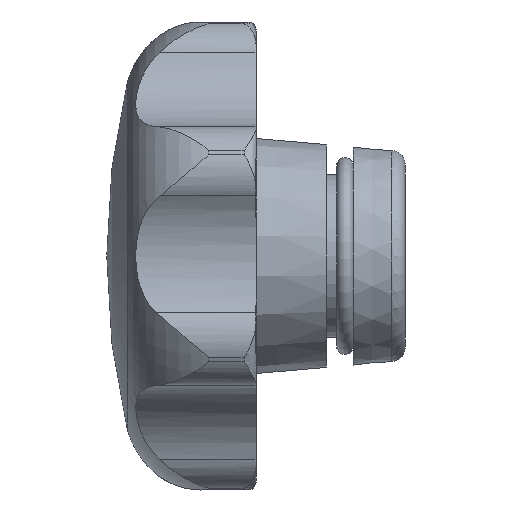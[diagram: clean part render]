
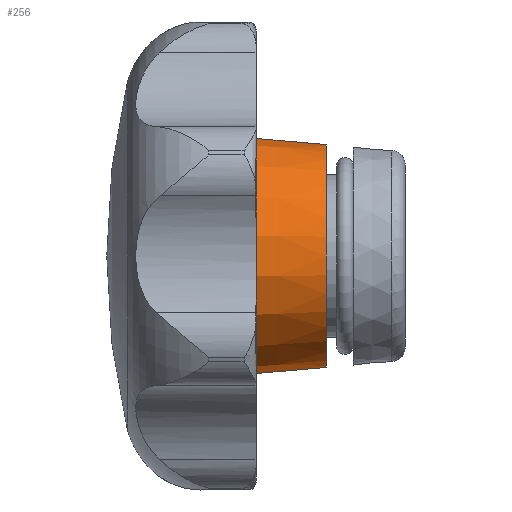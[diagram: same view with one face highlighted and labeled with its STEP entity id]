
A CAD part, left-side view. The second image highlights one B-rep face of the part: STEP entity #256.
In plain terms, the highlighted conical face has half-angle 5 degrees and reference radius 8.312 mm.
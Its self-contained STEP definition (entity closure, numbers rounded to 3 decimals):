
#256 = ADVANCED_FACE( '', ( #559, #560 ), #561, .T. );
#559 = FACE_BOUND( '', #966, .T. );
#560 = FACE_OUTER_BOUND( '', #967, .T. );
#561 = CONICAL_SURFACE( '', #968, 8.312, 0.087 );
#966 = EDGE_LOOP( '', ( #1771 ) );
#967 = EDGE_LOOP( '', ( #1772 ) );
#968 = AXIS2_PLACEMENT_3D( '', #1773, #1774, #1775 );
#1771 = ORIENTED_EDGE( '', *, *, #2808, .F. );
#1772 = ORIENTED_EDGE( '', *, *, #2809, .T. );
#1773 = CARTESIAN_POINT( '', ( 0., 14.976, 0. ) );
#1774 = DIRECTION( '', ( 0., 1., 0. ) );
#1775 = DIRECTION( '', ( 0., 0., 1. ) );
#2808 = EDGE_CURVE( '', #3452, #3452, #3453, .T. );
#2809 = EDGE_CURVE( '', #3454, #3454, #3455, .T. );
#3452 = VERTEX_POINT( '', #5358 );
#3453 = CIRCLE( '', #5359, 7.465 );
#3454 = VERTEX_POINT( '', #5360 );
#3455 = CIRCLE( '', #5361, 8.312 );
#5358 = CARTESIAN_POINT( '', ( 0., 5.3, -7.465 ) );
#5359 = AXIS2_PLACEMENT_3D( '', #6111, #6112, #6113 );
#5360 = CARTESIAN_POINT( '', ( 0., 14.976, -8.312 ) );
#5361 = AXIS2_PLACEMENT_3D( '', #6114, #6115, #6116 );
#6111 = CARTESIAN_POINT( '', ( 0., 5.3, 0. ) );
#6112 = DIRECTION( '', ( 0., -1., 0. ) );
#6113 = DIRECTION( '', ( 0., 0., -1. ) );
#6114 = CARTESIAN_POINT( '', ( 0., 14.976, 0. ) );
#6115 = DIRECTION( '', ( 0., -1., 0. ) );
#6116 = DIRECTION( '', ( 0., 0., -1. ) );
